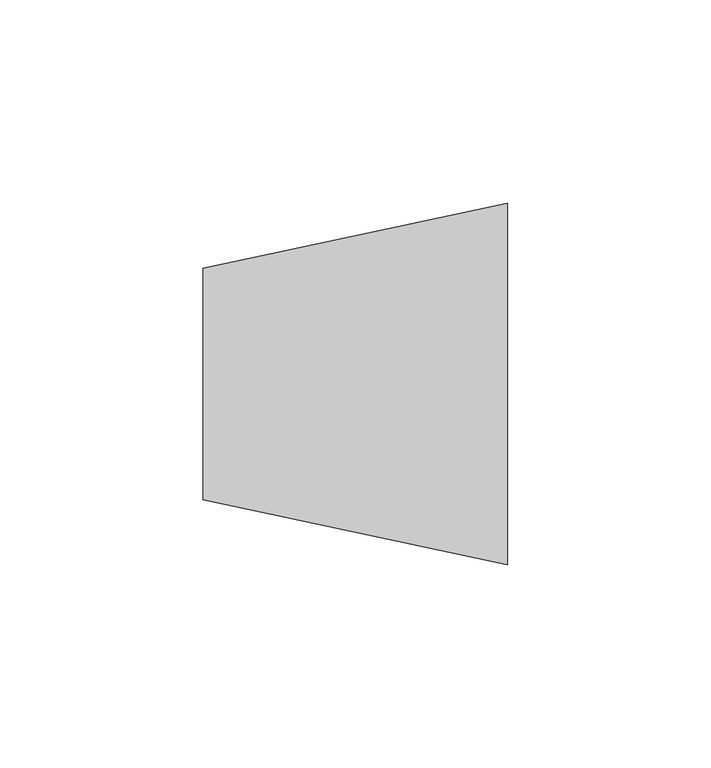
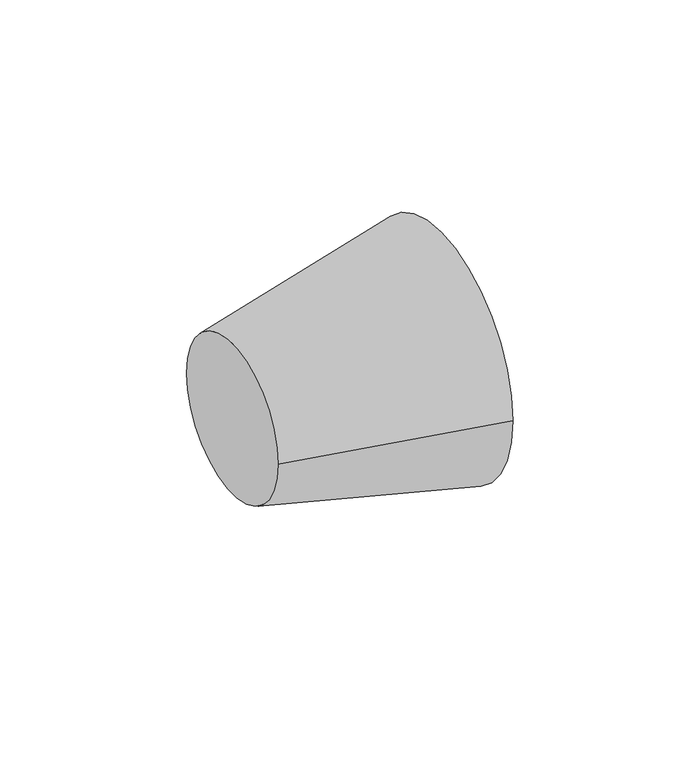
"""IFC4 building model written with IfcOpenShell, lengths in millimetres: pipe fitting geometry, ADSK_ДетальСтальнаяСварная_Переход_ГОСТ17378-2001 : Исполнение 2."""

import ifcopenshell
import ifcopenshell.guid

model = None  # the IFC model being written
_history = None  # IfcOwnerHistory: only IFC2X3 demands one
_inside = {}  # id of a spatial element -> (the spatial element, [elements in it])
_under = {}  # id of a project, library or spatial element -> (it, [spatial elements below it])
_declared = {}  # id of a project -> (the project, [libraries it declares])
_typed = {}  # id of a type object -> (the type object, [elements of that type])
_made_of = {}  # id of a material, layer set ... -> (it, [elements and type objects made of it])


def new_model(schema):
    """Start an empty IFC model of exactly this schema.

    Asked for "IFC4X3", IfcOpenShell would pick the latest addendum, in which some entities
    have other attributes; the version numbers below select the first issue.
    IFC2X3 requires an IfcOwnerHistory on every rooted entity: one is made here for all.
    """
    global model, _history
    if schema == "IFC4X3":
        model = ifcopenshell.file(schema_version=(4, 3, 0, 0))
    else:
        model = ifcopenshell.file(schema=schema)
    _inside.clear()
    _under.clear()
    _declared.clear()
    _typed.clear()
    _made_of.clear()
    _history = None
    if model.schema == "IFC2X3":
        org = make("IfcOrganization", Name="unknown")
        user = make(
            "IfcPersonAndOrganization",
            ThePerson=make("IfcPerson", FamilyName="unknown"),
            TheOrganization=org,
        )
        app = make(
            "IfcApplication",
            ApplicationDeveloper=org,
            Version="unknown",
            ApplicationFullName="unknown",
            ApplicationIdentifier="unknown",
        )
        _history = make(
            "IfcOwnerHistory",
            OwningUser=user,
            OwningApplication=app,
            ChangeAction="ADDED",
            CreationDate=0,
        )
    return model


def make(cls, **values):
    """One entity of the class cls with the attributes given. An attribute that is None is left unset."""
    return model.create_entity(
        cls, **{name: value for name, value in values.items() if value is not None}
    )


def rooted(cls, **values):
    """An entity with a GlobalId (a new one), such as an element, a storey or a relation."""
    return make(cls, GlobalId=ifcopenshell.guid.new(), OwnerHistory=_history, **values)


def si_unit(unit_type, name, prefix=None):
    """IfcSIUnit, for example si_unit("LENGTHUNIT", "METRE", prefix="MILLI")."""
    return make("IfcSIUnit", UnitType=unit_type, Prefix=prefix, Name=name)


def assignment(units):
    """IfcUnitAssignment: the units of a project."""
    return None if units is None else make("IfcUnitAssignment", Units=units)


def point(xyz):
    """IfcCartesianPoint."""
    return None if xyz is None else make("IfcCartesianPoint", Coordinates=xyz)


def direction(xyz):
    """IfcDirection."""
    return None if xyz is None else make("IfcDirection", DirectionRatios=xyz)


def frame(location, z_axis=None, x_axis=None):
    """IfcAxis2Placement3D, a coordinate frame: its origin and axes. An axis left out is left unset."""
    return make(
        "IfcAxis2Placement3D",
        Location=point(location),
        Axis=direction(z_axis),
        RefDirection=direction(x_axis),
    )


def origin():
    """The frame at (0, 0, 0) with its axes left unset."""
    return frame((0.0, 0.0, 0.0))


def place(relative_to, where):
    """IfcLocalPlacement: puts the frame where relative to a parent placement (None: the world)."""
    return make(
        "IfcLocalPlacement", PlacementRelTo=relative_to, RelativePlacement=where
    )


def context(
    kind, dimensions, precision=None, world=None, true_north=None, identifier=None
):
    """IfcGeometricRepresentationContext, for example the 3D "Model" context."""
    return make(
        "IfcGeometricRepresentationContext",
        ContextIdentifier=identifier,
        ContextType=kind,
        CoordinateSpaceDimension=dimensions,
        Precision=precision,
        WorldCoordinateSystem=world,
        TrueNorth=true_north,
    )


def project(units=None, contexts=None):
    """IfcProject with its units and contexts."""
    return rooted(
        "IfcProject",
        Name="project",
        RepresentationContexts=contexts,
        UnitsInContext=assignment(units),
    )


def spatial(cls, under=None, at=None, **own):
    """A site, building, storey or space (cls), placed at a placement, below another one or the project."""
    s = rooted(cls, ObjectPlacement=at, **own)
    if under is not None:
        _under.setdefault(under.id(), (under, []))[1].append(s)
    return s


def polyline(points):
    """IfcPolyline through the points."""
    return make("IfcPolyline", Points=[point(p) for p in points])


def circle_curve(where, radius):
    """IfcCircle in the frame where."""
    return make("IfcCircle", Position=where, Radius=radius)


def shape(context_of_items, identifier, shape_type, items):
    """IfcShapeRepresentation: the items that make up one representation, for example the "Body"."""
    return make(
        "IfcShapeRepresentation",
        ContextOfItems=context_of_items,
        RepresentationIdentifier=identifier,
        RepresentationType=shape_type,
        Items=items,
    )


def source(mapping_origin, context_of_items, identifier, shape_type, items):
    """IfcRepresentationMap: a shape defined once, which mapped items show again and again."""
    return make(
        "IfcRepresentationMap",
        MappingOrigin=mapping_origin,
        MappedRepresentation=shape(context_of_items, identifier, shape_type, items),
    )


def transform(
    local_origin,
    x_axis=None,
    y_axis=None,
    z_axis=None,
    scale=None,
    scale2=None,
    scale3=None,
    uniform=True,
):
    """IfcCartesianTransformationOperator3D, or its non-uniform kind. x_axis, y_axis, z_axis: its Axis1, 2, 3."""
    if uniform:
        return make(
            "IfcCartesianTransformationOperator3D",
            Axis1=direction(x_axis),
            Axis2=direction(y_axis),
            LocalOrigin=point(local_origin),
            Scale=scale,
            Axis3=direction(z_axis),
        )
    return make(
        "IfcCartesianTransformationOperator3DnonUniform",
        Axis1=direction(x_axis),
        Axis2=direction(y_axis),
        LocalOrigin=point(local_origin),
        Scale=scale,
        Axis3=direction(z_axis),
        Scale2=scale2,
        Scale3=scale3,
    )


def mapped(mapping_source, mapping_target):
    """IfcMappedItem: shows the shape of a source again, moved by a transform."""
    return make(
        "IfcMappedItem", MappingSource=mapping_source, MappingTarget=mapping_target
    )


def made_of(thing, what):
    """Note that an element or type object is made of a material, layer set ...; save() writes the relation."""
    if what is not None:
        _made_of.setdefault(what.id(), (what, []))[1].append(thing)
    return thing


def element(
    cls,
    number,
    at=None,
    inside=None,
    cuts=None,
    type_object=None,
    material=None,
    context=None,
    identifier="Body",
    shape_type=None,
    held_by="IfcProductDefinitionShape",
    body=None,
    shapes=None,
    **own,
):
    """One element of the class cls, such as IfcWall. Its Tag is "e" and its number.

    at: its placement. inside: the storey or other place that contains it. cuts: it is an
    opening in that element (IfcRelVoidsElement). A single representation is given by context,
    identifier, shape_type and body (its items); several are given by shapes. held_by: the class
    of the entity that holds the representations. save() writes the other relations.
    """
    e = rooted(cls, Tag="e%d" % number, ObjectPlacement=at, **own)
    if body is not None:
        shapes = [shape(context, identifier, shape_type, body)]
    if shapes is not None:
        e.Representation = make(held_by, Representations=shapes)
    if inside is not None:
        _inside.setdefault(inside.id(), (inside, []))[1].append(e)
    if cuts is not None:
        rooted(
            "IfcRelVoidsElement", RelatingBuildingElement=cuts, RelatedOpeningElement=e
        )
    if type_object is not None:
        _typed.setdefault(type_object.id(), (type_object, []))[1].append(e)
    return made_of(e, material)


def aggregate(whole, parts):
    """IfcRelAggregates: a whole, such as a stair, and the parts it consists of."""
    return rooted("IfcRelAggregates", RelatingObject=whole, RelatedObjects=parts)


def save(model, path):
    """Write the relations noted so far, then the file.

    IfcRelAggregates (storeys below a building ...), IfcRelContainedInSpatialStructure (elements
    in a storey), IfcRelDefinesByType, IfcRelAssociatesMaterial and IfcRelDeclares: one each for
    every whole, place, type object, material and project.
    """
    for whole, parts in _under.values():
        aggregate(whole, parts)
    for where, things in _inside.values():
        rooted(
            "IfcRelContainedInSpatialStructure",
            RelatedElements=things,
            RelatingStructure=where,
        )
    for kind, things in _typed.values():
        rooted("IfcRelDefinesByType", RelatedObjects=things, RelatingType=kind)
    for what, things in _made_of.values():
        rooted("IfcRelAssociatesMaterial", RelatedObjects=things, RelatingMaterial=what)
    for by, libraries in _declared.values():
        rooted("IfcRelDeclares", RelatingContext=by, RelatedDefinitions=libraries)
    model.write(path)


def plane_surface(at):
    """IfcPlane: the flat surface through the origin of the frame at, square to its z axis."""
    return make("IfcPlane", Position=at)


def revolved_surface(curve, axis_point, axis_direction):
    """IfcSurfaceOfRevolution: the curve turned about the line through axis_point along axis_direction."""
    return make(
        "IfcSurfaceOfRevolution",
        SweptCurve=make("IfcArbitraryOpenProfileDef", ProfileType="CURVE", Curve=curve),
        AxisPosition=make("IfcAxis1Placement", Location=point(axis_point), Axis=direction(axis_direction)),
    )


def advanced_brep(points, edges, surfaces, faces):
    """IfcAdvancedBrep: a solid bounded by faces that lie on surfaces and meet in shared edges.

    An edge is (start, end): straight between two places in points (the first is 0);
    or (start, end, curve); or (start, end, curve, False) where it runs against its curve.
    A face is (place in surfaces, loops), or (place, loops, False) where it looks against
    its surface's normal. A loop lists edges by number (the first is 1), with a minus sign
    where the edge is run from its end to its start. The first loop is the outer one.
    """
    corners = [point(p) for p in points]
    vertices = [make("IfcVertexPoint", VertexGeometry=c) for c in corners]
    made = []
    for start, end, *more in edges:
        made.append(
            make(
                "IfcEdgeCurve",
                EdgeStart=vertices[start],
                EdgeEnd=vertices[end],
                EdgeGeometry=more[0] if more else make("IfcPolyline", Points=[corners[start], corners[end]]),
                SameSense=more[1] if len(more) > 1 else True,
            )
        )
    hull = []
    for where, loops, *sense in faces:
        bounds = []
        for j, loop in enumerate(loops):
            ring = [make("IfcOrientedEdge", EdgeElement=made[abs(k) - 1], Orientation=k > 0) for k in loop]
            bounds.append(
                make(
                    "IfcFaceOuterBound" if j == 0 else "IfcFaceBound",
                    Bound=make("IfcEdgeLoop", EdgeList=ring),
                    Orientation=True,
                )
            )
        hull.append(make("IfcAdvancedFace", Bounds=bounds, FaceSurface=surfaces[where], SameSense=sense[0] if sense else True))
    return make("IfcAdvancedBrep", Outer=make("IfcClosedShell", CfsFaces=hull))


def pipe_fitting_5c446f8f(model_context):
    return source(origin(), model_context, "Body", "AdvancedBrep", [
        advanced_brep(
        [(75.0, -44.5, 0.0), (75.0, 44.5, 0.0), (0.0, -28.5, 0.0), (0.0, 28.5, 0.0)],
        [
            (0, 1, circle_curve(frame((75.0, 0.0, 0.0), z_axis=(1.0, 0.0, 0.0), x_axis=(0.0, -1.0, 0.0)), 44.5)),
            (1, 0, circle_curve(frame((75.0, 0.0, 0.0), z_axis=(1.0, 0.0, 0.0), x_axis=(0.0, 1.0, 0.0)), 44.5)),
            (2, 3, circle_curve(frame((0.0, 0.0, 0.0), z_axis=(-1.0, 0.0, 0.0), x_axis=(0.0, 1.0, 0.0)), 28.5)),
            (3, 2, circle_curve(frame((0.0, 0.0, 0.0), z_axis=(-1.0, 0.0, 0.0), x_axis=(0.0, -1.0, 0.0)), 28.5)),
            (3, 1),
            (0, 2),
        ],
        [
            plane_surface(frame((75.0, 0.0, 0.0), z_axis=(1.0, 0.0, 0.0), x_axis=(0.0, 0.0, -1.0))),
            plane_surface(frame((0.0, 0.0, 0.0), z_axis=(-1.0, 0.0, 0.0), x_axis=(0.0, 0.0, -1.0))),
            revolved_surface(polyline([(0.0, 28.5, 0.0), (75.0, 44.5, 0.0)]), (-133.59375, 0.0, 0.0), (1.0, 0.0, 0.0)),
            revolved_surface(polyline([(0.0, -28.5, 0.0), (75.0, -44.5, 0.0)]), (-133.59375, 0.0, 0.0), (1.0, 0.0, 0.0)),
        ],
        [
            (0, [[1, 2]]),
            (1, [[3, 4]]),
            (2, [[-4, 5, -1, 6]]),
            (3, [[-3, -6, -2, -5]]),
        ],
    ),
    ])


if __name__ == "__main__":
    model = new_model("IFC4")
    model_context = context("Model", 3, world=origin())
    ifc_project = project(units=[si_unit("LENGTHUNIT", "METRE", prefix="MILLI")], contexts=[model_context])
    site = spatial("IfcSite", under=ifc_project)
    building = spatial("IfcBuilding", under=site)
    placement = place(None, origin())
    pipe_fitting_shape = pipe_fitting_5c446f8f(model_context)
    element("IfcPipeFitting", 1, ObjectType="ADSK_ДетальСтальнаяСварная_Переход_ГОСТ17378-2001 : Исполнение 2", at=placement, inside=building, context=model_context, shape_type="MappedRepresentation", body=[
        mapped(pipe_fitting_shape, transform((0.0, 0.0, 0.0), x_axis=(1.0, 0.0, 0.0), y_axis=(0.0, 1.0, 0.0), z_axis=(0.0, 0.0, 1.0))),
    ])
    save(model, "model.ifc")
